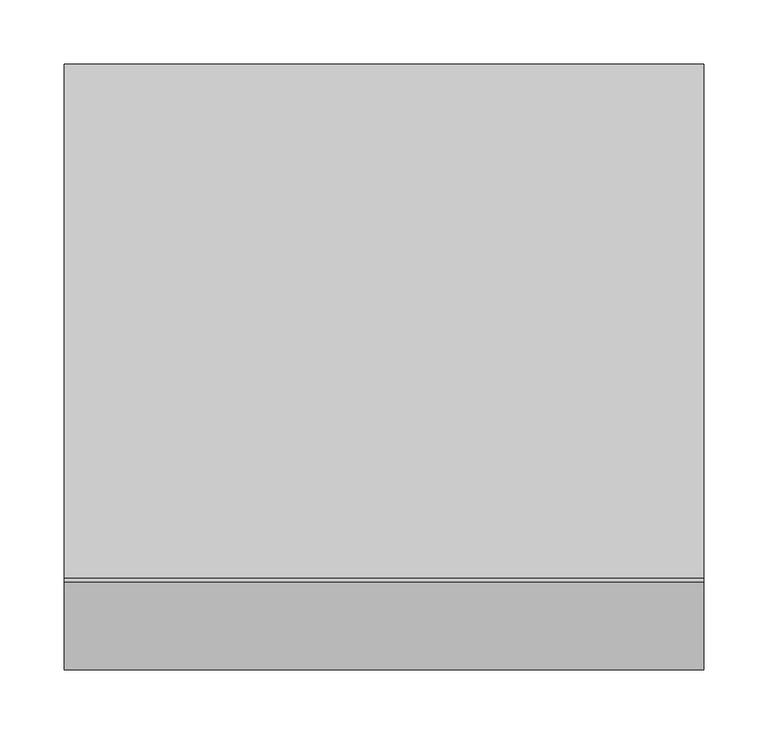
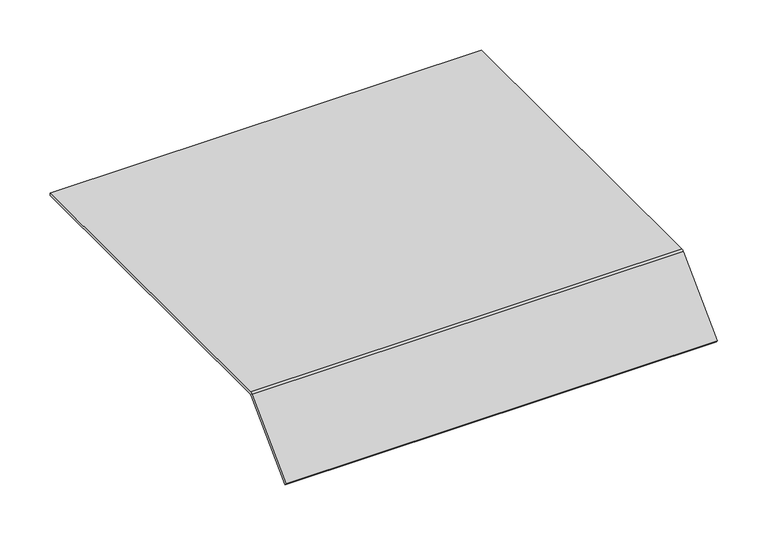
"""IFC4 building model written with IfcOpenShell, lengths in millimetres: proxy geometry, Electrical_Installation_Hager_Blank-Cover-800mm-Single-Sided-Height-70mm : Electrical_Installation_Hager_Blank-Cover-800mm-Single-Sided-Height-70mm."""

from ifc_helpers import new_model, si_unit, point, frame, frame_2d, origin, place, context, project, spatial, polyline, circle_curve, trimmed, segment, composite_curve, outline, extrude, source, transform, mapped, element, save


def electrical_fixtures_b7c22ff1(model_context):
    return source(origin(), model_context, "Body", "SweptSolid", [
        extrude(outline(composite_curve([segment(polyline([(200.0, 40.5), (200.0, 37.5), (-199.8229541, 37.5)]), True, "CONTINUOUS"), segment(trimmed(circle_curve(frame_2d((-199.8229541, 36.0725733)), 1.4274267), [point((-199.8229541, 37.5))], [point((-200.8322972, 37.0819164))], True, "CARTESIAN"), True, "CONTINUOUS"), segment(polyline([(-200.8322972, 37.0819164), (-268.6627596, -30.7485461), (-270.78408, -28.6272257), (-202.8206472, 39.336207)]), True, "CONTINUOUS"), segment(trimmed(circle_curve(frame_2d((-200.0110025, 36.5265623)), 3.9734377), [point((-202.8206472, 39.336207))], [point((-200.0110025, 40.5))], False, "CARTESIAN"), True, "CONTINUOUS"), segment(polyline([(-200.0110025, 40.5), (200.0, 40.5)]), True, "CONTINUOUS")], self_intersect=False)), frame((0.0, 0.0, 0.0), z_axis=(1.0, 0.0, 0.0), x_axis=(0.0, 1.0, 0.0)), (0.0, 0.0, 1.0), 496.9329721),
    ])


if __name__ == "__main__":
    model = new_model("IFC4")
    model_context = context("Model", 3, world=origin())
    ifc_project = project(units=[si_unit("LENGTHUNIT", "METRE", prefix="MILLI")], contexts=[model_context])
    site = spatial("IfcSite", under=ifc_project)
    building = spatial("IfcBuilding", under=site)
    placement = place(None, origin())
    electrical_fixtures_shape = electrical_fixtures_b7c22ff1(model_context)
    element("IfcBuildingElementProxy", 1, Name="Electrical_Installation_Hager_Blank-Cover-800mm-Single-Sided-Height-70mm : Electrical_Installation_Hager_Blank-Cover-800mm-Single-Sided-Height-70mm", ObjectType="Electrical_Installation_Hager_Blank-Cover-800mm-Single-Sided-Height-70mm : Electrical_Installation_Hager_Blank-Cover-800mm-Single-Sided-Height-70mm", at=placement, inside=building, context=model_context, shape_type="MappedRepresentation", body=[
        mapped(electrical_fixtures_shape, transform((0.0, 0.0, 0.0), x_axis=(1.0, 0.0, 0.0), y_axis=(0.0, 1.0, 0.0), z_axis=(0.0, 0.0, 1.0))),
    ])
    save(model, "model.ifc")
